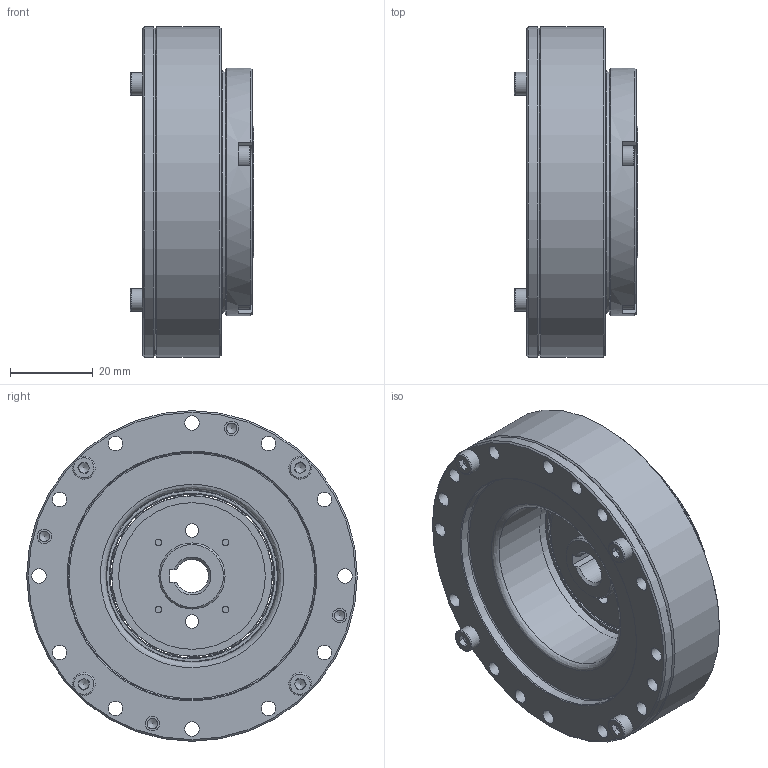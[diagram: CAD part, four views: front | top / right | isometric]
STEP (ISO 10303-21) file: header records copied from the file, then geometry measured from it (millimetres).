
FILE_DESCRIPTION (( 'STEP AP203' ), '1' );
FILE_NAME ('LHS-17-XXX-C-I.STEP', '2025-01-07T05:57:49', ( '' ), ( '' ), 'SwSTEP 2.0', 'SolidWorks 2023', '' );
FILE_SCHEMA (( 'CONFIG_CONTROL_DESIGN' ));
Length unit declared in the file: metre
Products named in the file (1): LHS-17-XXX-C-I
Bounding box: 29.9 x 80 x 80 mm (x, y, z)
Volume: 71106.2 mm3; surface area: 63385.4 mm2
Topology: 45 solids, 45 shells, 701 faces, 1715 edges, 1085 vertices
Faces by surface type: plane 310, cylinder 219, cone 111, bspline 61
Full cylindrical faces by diameter (mm): 1.6 x12, 2 x4, 2.4 x4, 2.5 x28, 3 x8, 3.3 x2, 3.5 x36, 3.7 x16, 3.8 x4, 4.4 x2, 5.5 x8, 16 x3, 27 x2, 29.4 x1, 30 x1, 30.295 x1, 32 x1, 32.53 x2, 33.23 x1, 35.5 x1, 38.79 x1, 39.6 x2, 41.72 x1, 41.722 x1, 42 x1, 42.466 x1, 43.67 x1, 45.5 x1, 47 x2, 49.5 x1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
Entity records: 21621 total; most frequent: CARTESIAN_POINT 6705, DIRECTION 3160, ORIENTED_EDGE 2592, AXIS2_PLACEMENT_3D 1345, EDGE_CURVE 1296, EDGE_LOOP 1156, VERTEX_POINT 976, FACE_OUTER_BOUND 884
